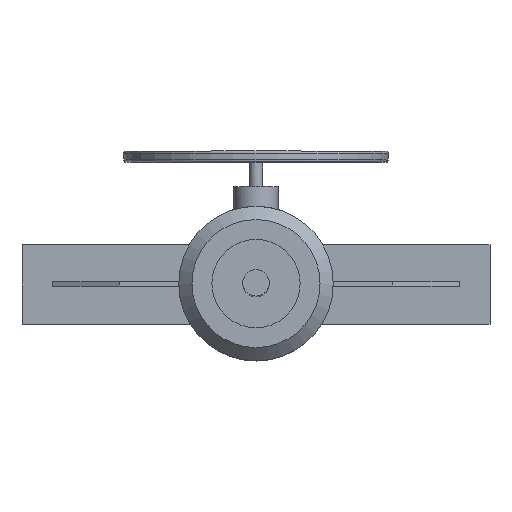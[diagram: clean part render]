
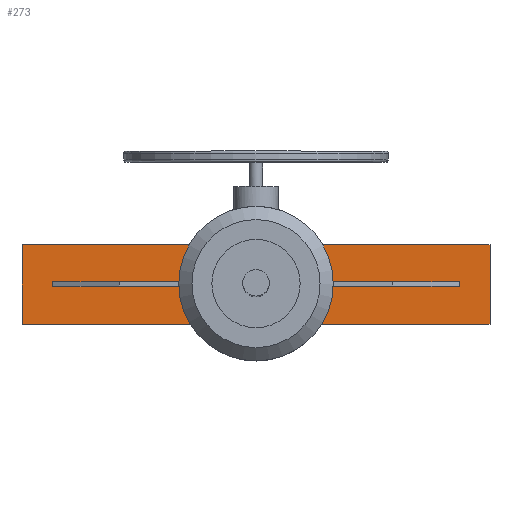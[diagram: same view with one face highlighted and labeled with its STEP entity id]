
A CAD part, top view. The second image highlights one B-rep face of the part: STEP entity #273.
In plain terms, the highlighted planar face has unit normal (0, 0, 1).
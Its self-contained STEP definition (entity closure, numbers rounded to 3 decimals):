
#273=ADVANCED_FACE('',(#2971,#2973),#2975,.T.);
#2971=FACE_BOUND('',#2972,.T.);
#2972=EDGE_LOOP('',(#5267,#5268,#5269,#5270,#5271,#5272,#5273,#5274));
#2973=FACE_BOUND('',#2974,.T.);
#2974=EDGE_LOOP('',(#5275,#5276,#5277,#5278));
#2975=PLANE('',#2976);
#2976=AXIS2_PLACEMENT_3D('',#2977,#2978,#2979);
#2977=CARTESIAN_POINT('',(0.,0.,900.));
#2978=DIRECTION('',(0.,0.,1.));
#2979=DIRECTION('',(1.,0.,0.));
#5267=ORIENTED_EDGE('',*,*,#6559,.F.);
#5268=ORIENTED_EDGE('',*,*,#6557,.T.);
#5269=ORIENTED_EDGE('',*,*,#6570,.T.);
#5270=ORIENTED_EDGE('',*,*,#6563,.T.);
#5271=ORIENTED_EDGE('',*,*,#6562,.F.);
#5272=ORIENTED_EDGE('',*,*,#6567,.T.);
#5273=ORIENTED_EDGE('',*,*,#6571,.T.);
#5274=ORIENTED_EDGE('',*,*,#6553,.T.);
#5275=ORIENTED_EDGE('',*,*,#6572,.F.);
#5276=ORIENTED_EDGE('',*,*,#6573,.F.);
#5277=ORIENTED_EDGE('',*,*,#6574,.F.);
#5278=ORIENTED_EDGE('',*,*,#6575,.F.);
#6553=EDGE_CURVE('',#7262,#7245,#7263,.T.);
#6557=EDGE_CURVE('',#7225,#7268,#7270,.T.);
#6559=EDGE_CURVE('',#7225,#7245,#7272,.T.);
#6562=EDGE_CURVE('',#7239,#7231,#7276,.T.);
#6563=EDGE_CURVE('',#7277,#7231,#7278,.T.);
#6567=EDGE_CURVE('',#7239,#7283,#7285,.T.);
#6570=EDGE_CURVE('',#7268,#7277,#7290,.T.);
#6571=EDGE_CURVE('',#7283,#7262,#7291,.T.);
#6572=EDGE_CURVE('',#7292,#7293,#7294,.T.);
#6573=EDGE_CURVE('',#7295,#7292,#7296,.F.);
#6574=EDGE_CURVE('',#7297,#7295,#7298,.T.);
#6575=EDGE_CURVE('',#7293,#7297,#7299,.T.);
#7225=VERTEX_POINT('',#8434);
#7231=VERTEX_POINT('',#8446);
#7239=VERTEX_POINT('',#8464);
#7245=VERTEX_POINT('',#8476);
#7262=VERTEX_POINT('',#8524);
#7263=LINE('',#8525,#8526);
#7268=VERTEX_POINT('',#8536);
#7270=LINE('',#8540,#8541);
#7272=LINE('',#8546,#8547);
#7276=LINE('',#8557,#8558);
#7277=VERTEX_POINT('',#8560);
#7278=LINE('',#8561,#8562);
#7283=VERTEX_POINT('',#8572);
#7285=LINE('',#8576,#8577);
#7290=LINE('',#8589,#8590);
#7291=LINE('',#8592,#8593);
#7292=VERTEX_POINT('',#8595);
#7293=VERTEX_POINT('',#8596);
#7294=LINE('',#8597,#8598);
#7295=VERTEX_POINT('',#8600);
#7296=LINE('',#8601,#8602);
#7297=VERTEX_POINT('',#8604);
#7298=LINE('',#8605,#8606);
#7299=LINE('',#8608,#8609);
#8434=CARTESIAN_POINT('',(140.,-90.,900.));
#8446=CARTESIAN_POINT('',(140.,90.,900.));
#8464=CARTESIAN_POINT('',(-140.,90.,900.));
#8476=CARTESIAN_POINT('',(-140.,-90.,900.));
#8524=CARTESIAN_POINT('',(-530.,-90.,900.));
#8525=CARTESIAN_POINT('',(-530.,-90.,900.));
#8526=VECTOR('',#8527,1.);
#8527=DIRECTION('',(1.,0.,0.));
#8536=CARTESIAN_POINT('',(530.,-90.,900.));
#8540=CARTESIAN_POINT('',(140.,-90.,900.));
#8541=VECTOR('',#8542,1.);
#8542=DIRECTION('',(1.,0.,0.));
#8546=CARTESIAN_POINT('',(140.,-90.,900.));
#8547=VECTOR('',#8548,1.);
#8548=DIRECTION('',(-1.,0.,0.));
#8557=CARTESIAN_POINT('',(-140.,90.,900.));
#8558=VECTOR('',#8559,1.);
#8559=DIRECTION('',(1.,0.,0.));
#8560=CARTESIAN_POINT('',(530.,90.,900.));
#8561=CARTESIAN_POINT('',(530.,90.,900.));
#8562=VECTOR('',#8563,1.);
#8563=DIRECTION('',(-1.,0.,0.));
#8572=CARTESIAN_POINT('',(-530.,90.,900.));
#8576=CARTESIAN_POINT('',(-140.,90.,900.));
#8577=VECTOR('',#8578,1.);
#8578=DIRECTION('',(-1.,0.,0.));
#8589=CARTESIAN_POINT('',(530.,-90.,900.));
#8590=VECTOR('',#8591,1.);
#8591=DIRECTION('',(0.,1.,0.));
#8592=CARTESIAN_POINT('',(-530.,90.,900.));
#8593=VECTOR('',#8594,1.);
#8594=DIRECTION('',(0.,-1.,0.));
#8595=CARTESIAN_POINT('',(-460.,5.,900.));
#8596=CARTESIAN_POINT('',(-460.,-5.,900.));
#8597=CARTESIAN_POINT('',(-460.,5.,900.));
#8598=VECTOR('',#8599,1.);
#8599=DIRECTION('',(0.,-1.,0.));
#8600=CARTESIAN_POINT('',(460.,5.,900.));
#8601=CARTESIAN_POINT('',(-460.,5.,900.));
#8602=VECTOR('',#8603,1.);
#8603=DIRECTION('',(1.,0.,0.));
#8604=CARTESIAN_POINT('',(460.,-5.,900.));
#8605=CARTESIAN_POINT('',(460.,-5.,900.));
#8606=VECTOR('',#8607,1.);
#8607=DIRECTION('',(0.,1.,0.));
#8608=CARTESIAN_POINT('',(-460.,-5.,900.));
#8609=VECTOR('',#8610,1.);
#8610=DIRECTION('',(1.,0.,0.));
